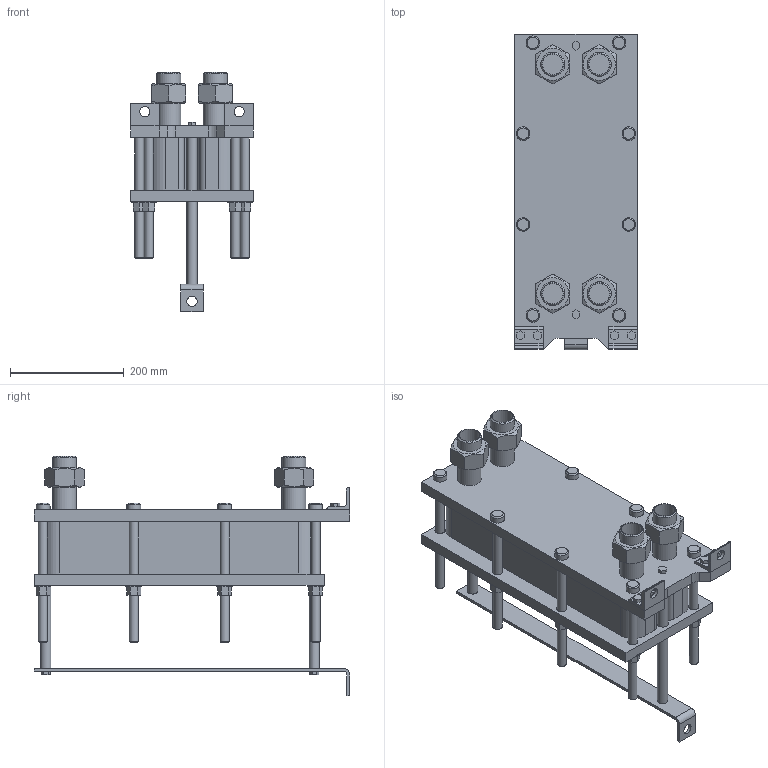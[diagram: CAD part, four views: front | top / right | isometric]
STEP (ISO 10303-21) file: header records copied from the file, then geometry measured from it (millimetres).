
FILE_DESCRIPTION(/* description */ (''),/* implementation_level */ '2;1');
FILE_NAME(/* name */ 'C:\Users\zhuro\Desktop\ENCO\TO\ЭН-004\ЭН-0,5-004-30-1.stp',/* time_stamp */ '2022-06-06T10:45:40+03:00',/* author */ ('zhuro'),/* organization */ (''),/* preprocessor_version */ 'ST-DEVELOPER v18.1',/* originating_system */ 'Autodesk Inventor 2022',/* authorisation */ '');
FILE_SCHEMA (('AUTOMOTIVE_DESIGN { 1 0 10303 214 3 1 1 }'));
Length unit declared in the file: millimetre
Products named in the file (1): ЭН-0,5-004-30-1
Bounding box: 216 x 555 x 421 mm (x, y, z)
Volume: 12483430.1 mm3; surface area: 1160442.1 mm2
Topology: 40 solids, 40 shells, 403 faces, 865 edges, 574 vertices
Faces by surface type: plane 272, cylinder 103, cone 28
Full cylindrical faces by diameter (mm): 10 x4, 16 x16, 18 x29, 20 x2, 24 x8, 28 x8, 36.3 x5, 42.3 x9
Entity records: 11137 total; most frequent: CARTESIAN_POINT 1939, DIRECTION 1879, ORIENTED_EDGE 1730, EDGE_CURVE 865, AXIS2_PLACEMENT_3D 658, VERTEX_POINT 574, LINE 563, VECTOR 563
